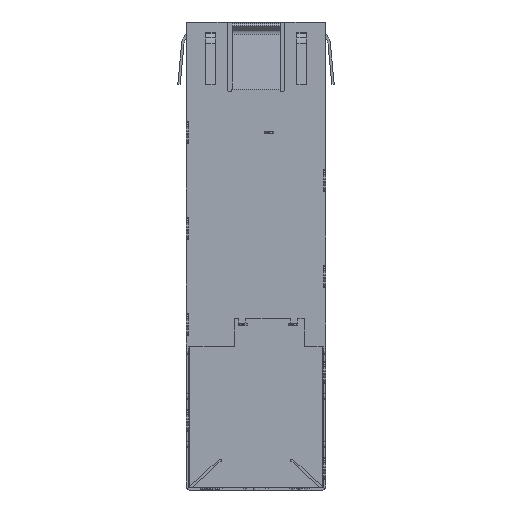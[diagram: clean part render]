
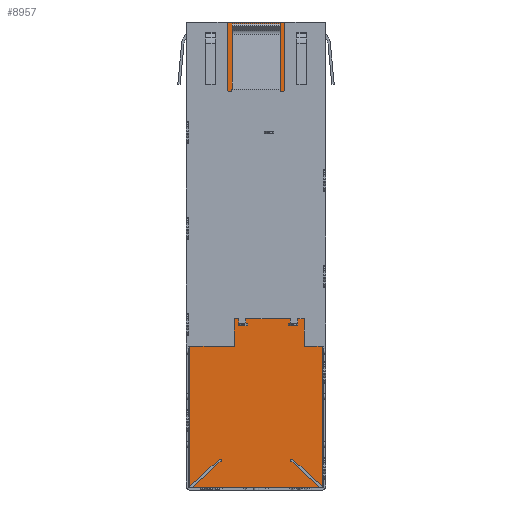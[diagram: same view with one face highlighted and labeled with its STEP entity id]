
A CAD part, front view. The second image highlights one B-rep face of the part: STEP entity #8957.
In plain terms, the highlighted planar face has unit normal (0, -1, 0).
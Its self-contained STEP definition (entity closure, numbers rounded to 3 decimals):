
#907 = PLANE ( 'NONE',  #4857 ) ;
#1768 = LINE ( 'NONE', #14939, #12386 ) ;
#2021 = EDGE_CURVE ( 'NONE', #3507, #2914, #2657, .T. ) ;
#2522 = DIRECTION ( 'NONE',  ( -1., 0., 0. ) ) ;
#2657 = LINE ( 'NONE', #5192, #11235 ) ;
#2743 = EDGE_CURVE ( 'NONE', #7491, #2914, #8557, .T. ) ;
#2914 = VERTEX_POINT ( 'NONE', #8520 ) ;
#3071 = VECTOR ( 'NONE', #2522, 1000. ) ;
#3201 = CARTESIAN_POINT ( 'NONE',  ( 6.95, 9.2, -65.366 ) ) ;
#3292 = DIRECTION ( 'NONE',  ( 0., 0., 1. ) ) ;
#3507 = VERTEX_POINT ( 'NONE', #7716 ) ;
#3940 = DIRECTION ( 'NONE',  ( 0., 0., 1. ) ) ;
#4691 = CARTESIAN_POINT ( 'NONE',  ( 6.95, 9.2, -48.5 ) ) ;
#4857 = AXIS2_PLACEMENT_3D ( 'NONE', #3201, #10271, #3292 ) ;
#5192 = CARTESIAN_POINT ( 'NONE',  ( -6.95, 9.2, -65.366 ) ) ;
#5943 = CARTESIAN_POINT ( 'NONE',  ( 6.95, 9.2, 0. ) ) ;
#6357 = ORIENTED_EDGE ( 'NONE', *, *, #2743, .T. ) ;
#6489 = EDGE_CURVE ( 'NONE', #9506, #7491, #1768, .T. ) ;
#7491 = VERTEX_POINT ( 'NONE', #5943 ) ;
#7716 = CARTESIAN_POINT ( 'NONE',  ( -6.95, 9.2, -48.5 ) ) ;
#7899 = DIRECTION ( 'NONE',  ( 0., 0., 1. ) ) ;
#8216 = CARTESIAN_POINT ( 'NONE',  ( 6.95, 9.2, 0. ) ) ;
#8449 = CARTESIAN_POINT ( 'NONE',  ( 6.95, 9.2, -48.5 ) ) ;
#8520 = CARTESIAN_POINT ( 'NONE',  ( -6.95, 9.2, 0. ) ) ;
#8557 = LINE ( 'NONE', #8216, #13131 ) ;
#8957 = ADVANCED_FACE ( 'NONE', ( #13059 ), #907, .F. ) ;
#9458 = LINE ( 'NONE', #8449, #3071 ) ;
#9506 = VERTEX_POINT ( 'NONE', #4691 ) ;
#10271 = DIRECTION ( 'NONE',  ( 0., 1., 0. ) ) ;
#10593 = EDGE_LOOP ( 'NONE', ( #12691, #6357, #12869, #14209 ) ) ;
#10702 = DIRECTION ( 'NONE',  ( -1., 0., 0. ) ) ;
#11235 = VECTOR ( 'NONE', #3940, 1000. ) ;
#12386 = VECTOR ( 'NONE', #7899, 1000. ) ;
#12691 = ORIENTED_EDGE ( 'NONE', *, *, #6489, .T. ) ;
#12869 = ORIENTED_EDGE ( 'NONE', *, *, #2021, .F. ) ;
#13059 = FACE_OUTER_BOUND ( 'NONE', #10593, .T. ) ;
#13131 = VECTOR ( 'NONE', #10702, 1000. ) ;
#14209 = ORIENTED_EDGE ( 'NONE', *, *, #14967, .F. ) ;
#14939 = CARTESIAN_POINT ( 'NONE',  ( 6.95, 9.2, -65.366 ) ) ;
#14967 = EDGE_CURVE ( 'NONE', #9506, #3507, #9458, .T. ) ;
